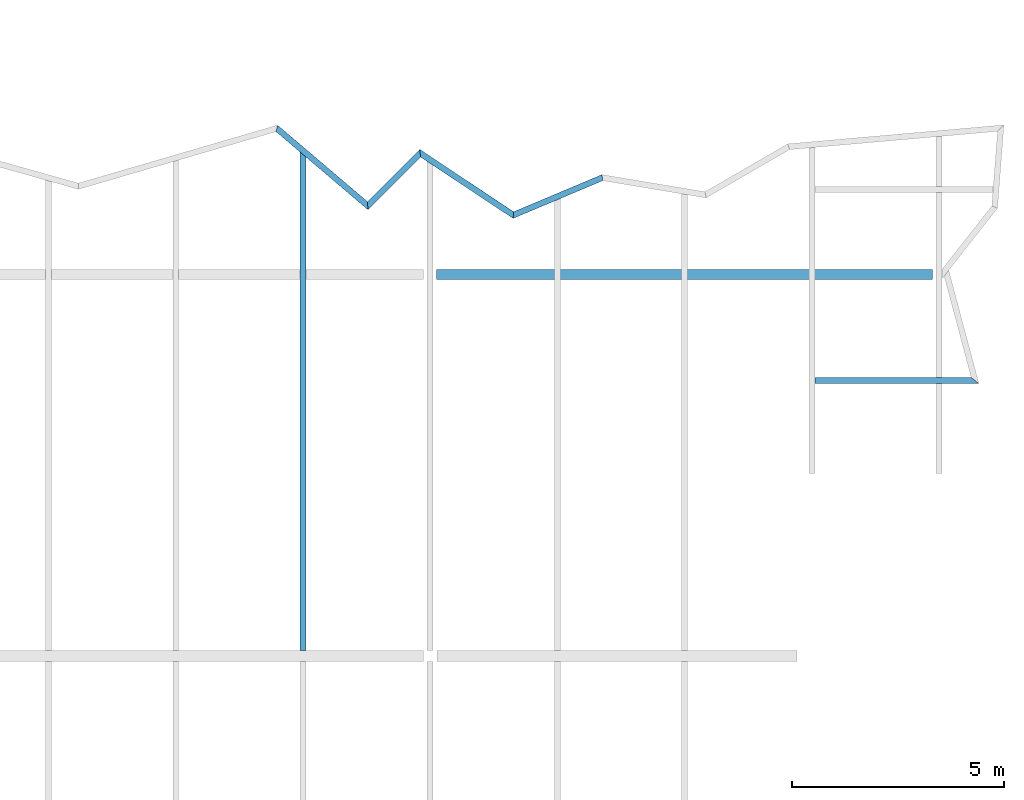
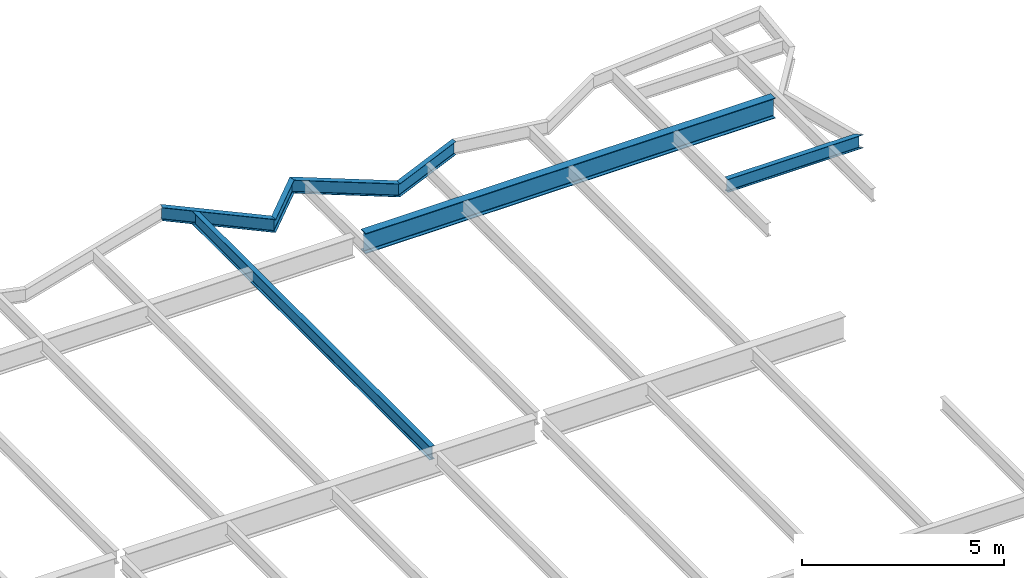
# One storey, part 19 of 21: 7 beams.
"""IFC2X3 building model written with IfcOpenShell, lengths in millimetres."""

from ifc_helpers import new_model, si_unit, origin, place, context, project, spatial, faceted_brep, material, element, save


model = new_model("IFC2X3")

# Units and contexts
context_of_model = context(None, 3, precision=1e-05, world=origin())
ifc_project = project(units=[si_unit("LENGTHUNIT", "METRE", prefix="MILLI")], contexts=[context_of_model])

# Building, storey
building = spatial("IfcBuilding", under=ifc_project, Name="Building", CompositionType="ELEMENT")
storey = spatial("IfcBuildingStorey", under=building, Name="FL6-FRM", CompositionType="ELEMENT")

# Beams
ifc_material_1 = material(Name="A992")
beam_1_placement = place(None, origin())
element("IfcBeam", 1, at=beam_1_placement, inside=storey, material=ifc_material_1, Name="B888", context=context_of_model, shape_type="Brep", body=[
    faceted_brep([(68930.0, 29886.4, 21970.0), (69070.0, 29767.4, 21970.0), (69070.0, 18132.5, 21970.0), (68930.0, 18132.5, 21970.0), (69070.0, 29767.4, 21981.2), (69070.0, 18132.5, 21981.2), (69013.7, 29815.3, 21981.2), (69013.7, 18132.5, 21981.2), (69012.3, 29816.5, 21981.3), (69012.2, 18132.5, 21981.3), (69010.8, 29817.7, 21981.6), (69010.8, 18132.5, 21981.6), (69009.5, 29818.9, 21982.1), (69009.5, 18132.5, 21982.1), (69008.2, 29819.9, 21982.8), (69008.2, 18132.5, 21982.8), (69007.0, 29820.9, 21983.7), (69007.0, 18132.5, 21983.7), (69006.0, 29821.8, 21984.7), (69006.0, 18132.5, 21984.7), (69005.1, 29822.5, 21985.8), (69005.1, 18132.5, 21985.9), (69004.4, 29823.1, 21987.1), (69004.4, 18132.5, 21987.2), (69003.9, 29823.6, 21988.5), (69003.9, 18132.5, 21988.5), (69003.6, 29823.8, 21989.9), (69003.6, 18132.5, 21989.9), (69003.5, 29823.9, 21991.4), (69003.5, 18132.5, 21991.4), (69003.5, 29823.9, 22351.6), (69003.5, 18132.5, 22351.6), (69003.6, 29823.8, 22353.1), (69003.6, 18132.5, 22353.1), (69003.9, 29823.6, 22354.5), (69003.9, 18132.5, 22354.5), (69004.4, 29823.1, 22355.9), (69004.4, 18132.5, 22355.8), (69005.1, 29822.5, 22357.2), (69005.1, 18132.5, 22357.1), (69006.0, 29821.8, 22358.3), (69006.0, 18132.5, 22358.3), (69007.0, 29820.9, 22359.3), (69007.0, 18132.5, 22359.3), (69008.2, 29819.9, 22360.2), (69008.2, 18132.5, 22360.2), (69009.5, 29818.9, 22360.9), (69009.5, 18132.5, 22360.9), (69010.8, 29817.7, 22361.4), (69010.8, 18132.5, 22361.4), (69012.3, 29816.5, 22361.7), (69012.2, 18132.5, 22361.7), (69013.7, 29815.3, 22361.8), (69013.7, 18132.5, 22361.8), (69070.0, 29767.4, 22361.8), (69070.0, 18132.5, 22361.8), (69070.0, 29767.4, 22373.0), (69070.0, 18132.5, 22373.0), (68930.0, 29886.4, 22373.0), (68930.0, 18132.5, 22373.0), (68930.0, 29886.4, 22361.8), (68930.0, 18132.5, 22361.8), (68986.3, 29838.6, 22361.8), (68986.3, 18132.5, 22361.8), (68987.7, 29837.3, 22361.7), (68987.8, 18132.5, 22361.7), (68989.2, 29836.1, 22361.4), (68989.2, 18132.5, 22361.4), (68990.5, 29835.0, 22360.9), (68990.5, 18132.5, 22360.9), (68991.8, 29833.9, 22360.2), (68991.8, 18132.5, 22360.2), (68993.0, 29832.9, 22359.3), (68993.0, 18132.5, 22359.3), (68994.0, 29832.0, 22358.3), (68994.0, 18132.5, 22358.3), (68994.9, 29831.3, 22357.2), (68994.9, 18132.5, 22357.1), (68995.6, 29830.7, 22355.9), (68995.6, 18132.5, 22355.8), (68996.1, 29830.3, 22354.5), (68996.1, 18132.5, 22354.5), (68996.4, 29830.0, 22353.1), (68996.4, 18132.5, 22353.1), (68996.5, 29829.9, 22351.6), (68996.5, 18132.5, 22351.6), (68996.5, 29829.9, 21991.4), (68996.5, 18132.5, 21991.4), (68996.4, 29830.0, 21989.9), (68996.4, 18132.5, 21989.9), (68996.1, 29830.3, 21988.5), (68996.1, 18132.5, 21988.5), (68995.6, 29830.7, 21987.1), (68995.6, 18132.5, 21987.2), (68994.9, 29831.3, 21985.8), (68994.9, 18132.5, 21985.9), (68994.0, 29832.0, 21984.7), (68994.0, 18132.5, 21984.7), (68993.0, 29832.9, 21983.7), (68993.0, 18132.5, 21983.7), (68991.8, 29833.9, 21982.8), (68991.8, 18132.5, 21982.8), (68990.5, 29835.0, 21982.1), (68990.5, 18132.5, 21982.1), (68989.2, 29836.1, 21981.6), (68989.2, 18132.5, 21981.6), (68987.7, 29837.3, 21981.3), (68987.8, 18132.5, 21981.3), (68986.3, 29838.6, 21981.2), (68986.3, 18132.5, 21981.2), (68930.0, 29886.4, 21981.2), (68930.0, 18132.5, 21981.2)], [[[0, 1, 2, 3]], [[1, 4, 5, 2]], [[4, 6, 7, 5]], [[6, 8, 9, 7]], [[8, 10, 11, 9]], [[10, 12, 13, 11]], [[12, 14, 15, 13]], [[14, 16, 17, 15]], [[16, 18, 19, 17]], [[18, 20, 21, 19]], [[20, 22, 23, 21]], [[22, 24, 25, 23]], [[24, 26, 27, 25]], [[26, 28, 29, 27]], [[28, 30, 31, 29]], [[30, 32, 33, 31]], [[32, 34, 35, 33]], [[34, 36, 37, 35]], [[36, 38, 39, 37]], [[38, 40, 41, 39]], [[40, 42, 43, 41]], [[42, 44, 45, 43]], [[44, 46, 47, 45]], [[46, 48, 49, 47]], [[48, 50, 51, 49]], [[50, 52, 53, 51]], [[52, 54, 55, 53]], [[54, 56, 57, 55]], [[56, 58, 59, 57]], [[58, 60, 61, 59]], [[60, 62, 63, 61]], [[62, 64, 65, 63]], [[64, 66, 67, 65]], [[66, 68, 69, 67]], [[68, 70, 71, 69]], [[70, 72, 73, 71]], [[72, 74, 75, 73]], [[74, 76, 77, 75]], [[76, 78, 79, 77]], [[78, 80, 81, 79]], [[80, 82, 83, 81]], [[82, 84, 85, 83]], [[84, 86, 87, 85]], [[86, 88, 89, 87]], [[88, 90, 91, 89]], [[90, 92, 93, 91]], [[92, 94, 95, 93]], [[94, 96, 97, 95]], [[96, 98, 99, 97]], [[98, 100, 101, 99]], [[100, 102, 103, 101]], [[102, 104, 105, 103]], [[104, 106, 107, 105]], [[106, 108, 109, 107]], [[108, 110, 111, 109]], [[110, 0, 3, 111]], [[0, 110, 108, 106, 104, 102, 100, 98, 96, 94, 92, 90, 88, 86, 84, 82, 80, 78, 76, 74, 72, 70, 68, 66, 64, 62, 60, 58, 56, 54, 52, 50, 48, 46, 44, 42, 40, 38, 36, 34, 32, 30, 28, 26, 24, 22, 20, 18, 16, 14, 12, 10, 8, 6, 4, 1]], [[3, 2, 5, 7, 9, 11, 13, 15, 17, 19, 21, 23, 25, 27, 29, 31, 33, 35, 37, 39, 41, 43, 45, 47, 49, 51, 53, 55, 57, 59, 61, 63, 65, 67, 69, 71, 73, 75, 77, 79, 81, 83, 85, 87, 89, 91, 93, 95, 97, 99, 101, 103, 105, 107, 109, 111]]]),
])
ifc_material_2 = material(Name="A992")
beam_2_placement = place(None, origin())
element("IfcBeam", 2, at=beam_2_placement, inside=storey, material=ifc_material_2, Name="Column616", context=context_of_model, shape_type="Brep", body=[
    faceted_brep([(72154.0, 26885.5, 21761.0), (72154.0, 27114.5, 21761.0), (83848.5, 27114.5, 21761.0), (83848.5, 26885.5, 21761.0), (72154.0, 27114.5, 21780.6), (83848.5, 27114.5, 21780.6), (72154.0, 27018.6, 21780.6), (83848.5, 27018.6, 21780.6), (72154.0, 27015.4, 21781.0), (83848.5, 27015.4, 21781.0), (72154.0, 27012.3, 21782.3), (83848.5, 27012.3, 21782.3), (72154.0, 27009.7, 21784.3), (83848.5, 27009.7, 21784.3), (72154.0, 27007.7, 21787.0), (83848.5, 27007.7, 21787.0), (72154.0, 27006.4, 21790.0), (83848.5, 27006.4, 21790.0), (72154.0, 27005.9, 21793.3), (83848.5, 27005.9, 21793.3), (72154.0, 27005.9, 22340.7), (83848.5, 27005.9, 22340.7), (72154.0, 27006.4, 22344.0), (83848.5, 27006.4, 22344.0), (72154.0, 27007.7, 22347.0), (83848.5, 27007.7, 22347.0), (72154.0, 27009.7, 22349.7), (83848.5, 27009.7, 22349.7), (72154.0, 27012.3, 22351.7), (83848.5, 27012.3, 22351.7), (72154.0, 27015.4, 22353.0), (83848.5, 27015.4, 22353.0), (72154.0, 27018.6, 22353.4), (83848.5, 27018.6, 22353.4), (72154.0, 27114.5, 22353.4), (83848.5, 27114.5, 22353.4), (72154.0, 27114.5, 22373.0), (83848.5, 27114.5, 22373.0), (72154.0, 26885.5, 22373.0), (83848.5, 26885.5, 22373.0), (72154.0, 26885.5, 22353.4), (83848.5, 26885.5, 22353.4), (72154.0, 26981.4, 22353.4), (83848.5, 26981.4, 22353.4), (72154.0, 26984.6, 22353.0), (83848.5, 26984.6, 22353.0), (72154.0, 26987.7, 22351.7), (83848.5, 26987.7, 22351.7), (72154.0, 26990.3, 22349.7), (83848.5, 26990.3, 22349.7), (72154.0, 26992.3, 22347.0), (83848.5, 26992.3, 22347.0), (72154.0, 26993.6, 22344.0), (83848.5, 26993.6, 22344.0), (72154.0, 26994.1, 22340.7), (83848.5, 26994.1, 22340.7), (72154.0, 26994.1, 21793.3), (83848.5, 26994.1, 21793.3), (72154.0, 26993.6, 21790.0), (83848.5, 26993.6, 21790.0), (72154.0, 26992.3, 21787.0), (83848.5, 26992.3, 21787.0), (72154.0, 26990.3, 21784.3), (83848.5, 26990.3, 21784.3), (72154.0, 26987.7, 21782.3), (83848.5, 26987.7, 21782.3), (72154.0, 26984.6, 21781.0), (83848.5, 26984.6, 21781.0), (72154.0, 26981.4, 21780.6), (83848.5, 26981.4, 21780.6), (72154.0, 26885.5, 21780.6), (83848.5, 26885.5, 21780.6)], [[[0, 1, 2, 3]], [[1, 4, 5, 2]], [[4, 6, 7, 5]], [[6, 8, 9, 7]], [[8, 10, 11, 9]], [[10, 12, 13, 11]], [[12, 14, 15, 13]], [[14, 16, 17, 15]], [[16, 18, 19, 17]], [[18, 20, 21, 19]], [[20, 22, 23, 21]], [[22, 24, 25, 23]], [[24, 26, 27, 25]], [[26, 28, 29, 27]], [[28, 30, 31, 29]], [[30, 32, 33, 31]], [[32, 34, 35, 33]], [[34, 36, 37, 35]], [[36, 38, 39, 37]], [[38, 40, 41, 39]], [[40, 42, 43, 41]], [[42, 44, 45, 43]], [[44, 46, 47, 45]], [[46, 48, 49, 47]], [[48, 50, 51, 49]], [[50, 52, 53, 51]], [[52, 54, 55, 53]], [[54, 56, 57, 55]], [[56, 58, 59, 57]], [[58, 60, 61, 59]], [[60, 62, 63, 61]], [[62, 64, 65, 63]], [[64, 66, 67, 65]], [[66, 68, 69, 67]], [[68, 70, 71, 69]], [[70, 0, 3, 71]], [[0, 70, 68, 66, 64, 62, 60, 58, 56, 54, 52, 50, 48, 46, 44, 42, 40, 38, 36, 34, 32, 30, 28, 26, 24, 22, 20, 18, 16, 14, 12, 10, 8, 6, 4, 1]], [[3, 2, 5, 7, 9, 11, 13, 15, 17, 19, 21, 23, 25, 27, 29, 31, 33, 35, 37, 39, 41, 43, 45, 47, 49, 51, 53, 55, 57, 59, 61, 63, 65, 67, 69, 71]]]),
])
ifc_material_3 = material(Name="A992")
beam_3_placement = place(None, origin())
element("IfcBeam", 3, at=beam_3_placement, inside=storey, material=ifc_material_3, Name="B913", context=context_of_model, shape_type="Brep", body=[
    faceted_brep([(68364.8, 30366.8, 21974.0), (68398.0, 30522.3, 21974.0), (70523.7, 28715.5, 21974.0), (70531.4, 28525.3, 21974.0), (68398.0, 30522.3, 21982.8), (70523.7, 28715.5, 21982.8), (68384.6, 30459.5, 21982.8), (70526.8, 28638.6, 21982.8), (68384.2, 30457.7, 21982.9), (70526.9, 28636.5, 21982.9), (68383.8, 30456.0, 21983.3), (70526.9, 28634.3, 21983.3), (68383.5, 30454.3, 21983.9), (70527.0, 28632.4, 21983.9), (68383.2, 30452.8, 21984.7), (70527.1, 28630.5, 21984.7), (68382.9, 30451.5, 21985.8), (70527.2, 28628.8, 21985.8), (68382.6, 30450.3, 21987.0), (70527.2, 28627.4, 21987.0), (68382.4, 30449.4, 21988.4), (70527.3, 28626.3, 21988.3), (68382.3, 30448.7, 21989.8), (70527.3, 28625.5, 21989.8), (68382.2, 30448.3, 21991.4), (70527.3, 28625.0, 21991.4), (68382.2, 30448.1, 21993.0), (70527.3, 28624.7, 21993.0), (68382.2, 30448.1, 22354.0), (70527.3, 28624.7, 22354.0), (68382.2, 30448.3, 22355.6), (70527.3, 28625.0, 22355.6), (68382.3, 30448.7, 22357.2), (70527.3, 28625.5, 22357.2), (68382.4, 30449.4, 22358.6), (70527.3, 28626.3, 22358.7), (68382.6, 30450.3, 22360.0), (70527.2, 28627.4, 22360.0), (68382.9, 30451.5, 22361.2), (70527.2, 28628.8, 22361.2), (68383.2, 30452.8, 22362.3), (70527.1, 28630.5, 22362.3), (68383.5, 30454.3, 22363.1), (70527.0, 28632.4, 22363.1), (68383.8, 30456.0, 22363.7), (70526.9, 28634.3, 22363.7), (68384.2, 30457.7, 22364.1), (70526.9, 28636.5, 22364.1), (68384.6, 30459.5, 22364.2), (70526.8, 28638.6, 22364.2), (68398.0, 30522.3, 22364.2), (70523.7, 28715.5, 22364.2), (68398.0, 30522.3, 22373.0), (70523.7, 28715.5, 22373.0), (68364.8, 30366.8, 22373.0), (70531.4, 28525.3, 22373.0), (68364.8, 30366.8, 22364.2), (70531.4, 28525.3, 22364.2), (68378.2, 30429.7, 22364.2), (70528.2, 28602.2, 22364.2), (68378.6, 30431.5, 22364.1), (70528.2, 28604.3, 22364.1), (68379.0, 30433.2, 22363.7), (70528.1, 28606.5, 22363.7), (68379.3, 30434.8, 22363.1), (70528.0, 28608.4, 22363.1), (68379.7, 30436.3, 22362.3), (70527.9, 28610.3, 22362.3), (68379.9, 30437.7, 22361.2), (70527.8, 28612.0, 22361.2), (68380.2, 30438.8, 22360.0), (70527.8, 28613.4, 22360.0), (68380.4, 30439.8, 22358.6), (70527.7, 28614.5, 22358.7), (68380.5, 30440.5, 22357.2), (70527.7, 28615.3, 22357.2), (68380.6, 30440.9, 22355.6), (70527.7, 28615.8, 22355.6), (68380.7, 30441.0, 22354.0), (70527.7, 28616.1, 22354.0), (68380.7, 30441.0, 21993.0), (70527.7, 28616.1, 21993.0), (68380.6, 30440.9, 21991.4), (70527.7, 28615.8, 21991.4), (68380.5, 30440.5, 21989.8), (70527.7, 28615.3, 21989.8), (68380.4, 30439.8, 21988.4), (70527.7, 28614.5, 21988.3), (68380.2, 30438.8, 21987.0), (70527.8, 28613.4, 21987.0), (68379.9, 30437.7, 21985.8), (70527.8, 28612.0, 21985.8), (68379.7, 30436.3, 21984.7), (70527.9, 28610.3, 21984.7), (68379.3, 30434.8, 21983.9), (70528.0, 28608.4, 21983.9), (68379.0, 30433.2, 21983.3), (70528.1, 28606.5, 21983.3), (68378.6, 30431.5, 21982.9), (70528.2, 28604.3, 21982.9), (68378.2, 30429.7, 21982.8), (70528.2, 28602.2, 21982.8), (68364.8, 30366.8, 21982.8), (70531.4, 28525.3, 21982.8)], [[[0, 1, 2, 3]], [[1, 4, 5, 2]], [[4, 6, 7, 5]], [[6, 8, 9, 7]], [[8, 10, 11, 9]], [[10, 12, 13, 11]], [[12, 14, 15, 13]], [[14, 16, 17, 15]], [[16, 18, 19, 17]], [[18, 20, 21, 19]], [[20, 22, 23, 21]], [[22, 24, 25, 23]], [[24, 26, 27, 25]], [[26, 28, 29, 27]], [[28, 30, 31, 29]], [[30, 32, 33, 31]], [[32, 34, 35, 33]], [[34, 36, 37, 35]], [[36, 38, 39, 37]], [[38, 40, 41, 39]], [[40, 42, 43, 41]], [[42, 44, 45, 43]], [[44, 46, 47, 45]], [[46, 48, 49, 47]], [[48, 50, 51, 49]], [[50, 52, 53, 51]], [[52, 54, 55, 53]], [[54, 56, 57, 55]], [[56, 58, 59, 57]], [[58, 60, 61, 59]], [[60, 62, 63, 61]], [[62, 64, 65, 63]], [[64, 66, 67, 65]], [[66, 68, 69, 67]], [[68, 70, 71, 69]], [[70, 72, 73, 71]], [[72, 74, 75, 73]], [[74, 76, 77, 75]], [[76, 78, 79, 77]], [[78, 80, 81, 79]], [[80, 82, 83, 81]], [[82, 84, 85, 83]], [[84, 86, 87, 85]], [[86, 88, 89, 87]], [[88, 90, 91, 89]], [[90, 92, 93, 91]], [[92, 94, 95, 93]], [[94, 96, 97, 95]], [[96, 98, 99, 97]], [[98, 100, 101, 99]], [[100, 102, 103, 101]], [[102, 0, 3, 103]], [[0, 102, 100, 98, 96, 94, 92, 90, 88, 86, 84, 82, 80, 78, 76, 74, 72, 70, 68, 66, 64, 62, 60, 58, 56, 54, 52, 50, 48, 46, 44, 42, 40, 38, 36, 34, 32, 30, 28, 26, 24, 22, 20, 18, 16, 14, 12, 10, 8, 6, 4, 1]], [[3, 2, 5, 7, 9, 11, 13, 15, 17, 19, 21, 23, 25, 27, 29, 31, 33, 35, 37, 39, 41, 43, 45, 47, 49, 51, 53, 55, 57, 59, 61, 63, 65, 67, 69, 71, 73, 75, 77, 79, 81, 83, 85, 87, 89, 91, 93, 95, 97, 99, 101, 103]]]),
])
ifc_material_4 = material(Name="A992")
beam_4_placement = place(None, origin())
element("IfcBeam", 4, at=beam_4_placement, inside=storey, material=ifc_material_4, Name="B914", context=context_of_model, shape_type="Brep", body=[
    faceted_brep([(70531.4, 28525.3, 21974.0), (70523.7, 28715.5, 21974.0), (71755.4, 29947.3, 21974.0), (71773.4, 29767.3, 21974.0), (70523.7, 28715.5, 21982.8), (71755.4, 29947.3, 21982.8), (70526.8, 28638.6, 21982.8), (71762.7, 29874.5, 21982.8), (70526.9, 28636.5, 21982.9), (71762.9, 29872.5, 21982.9), (70526.9, 28634.3, 21983.3), (71763.1, 29870.5, 21983.3), (70527.0, 28632.4, 21983.9), (71763.3, 29868.6, 21983.9), (70527.1, 28630.5, 21984.7), (71763.5, 29866.9, 21984.7), (70527.2, 28628.8, 21985.8), (71763.6, 29865.3, 21985.8), (70527.2, 28627.4, 21987.0), (71763.8, 29864.0, 21987.0), (70527.3, 28626.3, 21988.3), (71763.9, 29862.9, 21988.3), (70527.3, 28625.5, 21989.8), (71763.9, 29862.1, 21989.8), (70527.3, 28625.0, 21991.4), (71764.0, 29861.6, 21991.4), (70527.3, 28624.7, 21993.0), (71764.0, 29861.4, 21993.0), (70527.3, 28624.7, 22354.0), (71764.0, 29861.4, 22354.0), (70527.3, 28625.0, 22355.6), (71764.0, 29861.6, 22355.6), (70527.3, 28625.5, 22357.2), (71763.9, 29862.1, 22357.2), (70527.3, 28626.3, 22358.7), (71763.9, 29862.9, 22358.7), (70527.2, 28627.4, 22360.0), (71763.8, 29864.0, 22360.0), (70527.2, 28628.8, 22361.2), (71763.6, 29865.3, 22361.2), (70527.1, 28630.5, 22362.3), (71763.5, 29866.9, 22362.3), (70527.0, 28632.4, 22363.1), (71763.3, 29868.6, 22363.1), (70526.9, 28634.3, 22363.7), (71763.1, 29870.5, 22363.7), (70526.9, 28636.5, 22364.1), (71762.9, 29872.5, 22364.1), (70526.8, 28638.6, 22364.2), (71762.7, 29874.5, 22364.2), (70523.7, 28715.5, 22364.2), (71755.4, 29947.3, 22364.2), (70523.7, 28715.5, 22373.0), (71755.4, 29947.3, 22373.0), (70531.4, 28525.3, 22373.0), (71773.4, 29767.3, 22373.0), (70531.4, 28525.3, 22364.2), (71773.4, 29767.3, 22364.2), (70528.2, 28602.2, 22364.2), (71766.1, 29840.1, 22364.2), (70528.2, 28604.3, 22364.1), (71765.9, 29842.1, 22364.1), (70528.1, 28606.5, 22363.7), (71765.7, 29844.1, 22363.7), (70528.0, 28608.4, 22363.1), (71765.6, 29846.0, 22363.1), (70527.9, 28610.3, 22362.3), (71765.4, 29847.8, 22362.3), (70527.8, 28612.0, 22361.2), (71765.2, 29849.4, 22361.2), (70527.8, 28613.4, 22360.0), (71765.1, 29850.7, 22360.0), (70527.7, 28614.5, 22358.7), (71765.0, 29851.8, 22358.7), (70527.7, 28615.3, 22357.2), (71764.9, 29852.5, 22357.2), (70527.7, 28615.8, 22355.6), (71764.9, 29853.0, 22355.6), (70527.7, 28616.1, 22354.0), (71764.8, 29853.2, 22354.0), (70527.7, 28616.1, 21993.0), (71764.8, 29853.2, 21993.0), (70527.7, 28615.8, 21991.4), (71764.9, 29853.0, 21991.4), (70527.7, 28615.3, 21989.8), (71764.9, 29852.5, 21989.8), (70527.7, 28614.5, 21988.3), (71765.0, 29851.8, 21988.3), (70527.8, 28613.4, 21987.0), (71765.1, 29850.7, 21987.0), (70527.8, 28612.0, 21985.8), (71765.2, 29849.4, 21985.8), (70527.9, 28610.3, 21984.7), (71765.4, 29847.8, 21984.7), (70528.0, 28608.4, 21983.9), (71765.6, 29846.0, 21983.9), (70528.1, 28606.5, 21983.3), (71765.7, 29844.1, 21983.3), (70528.2, 28604.3, 21982.9), (71765.9, 29842.1, 21982.9), (70528.2, 28602.2, 21982.8), (71766.1, 29840.1, 21982.8), (70531.4, 28525.3, 21982.8), (71773.4, 29767.3, 21982.8)], [[[0, 1, 2, 3]], [[1, 4, 5, 2]], [[4, 6, 7, 5]], [[6, 8, 9, 7]], [[8, 10, 11, 9]], [[10, 12, 13, 11]], [[12, 14, 15, 13]], [[14, 16, 17, 15]], [[16, 18, 19, 17]], [[18, 20, 21, 19]], [[20, 22, 23, 21]], [[22, 24, 25, 23]], [[24, 26, 27, 25]], [[26, 28, 29, 27]], [[28, 30, 31, 29]], [[30, 32, 33, 31]], [[32, 34, 35, 33]], [[34, 36, 37, 35]], [[36, 38, 39, 37]], [[38, 40, 41, 39]], [[40, 42, 43, 41]], [[42, 44, 45, 43]], [[44, 46, 47, 45]], [[46, 48, 49, 47]], [[48, 50, 51, 49]], [[50, 52, 53, 51]], [[52, 54, 55, 53]], [[54, 56, 57, 55]], [[56, 58, 59, 57]], [[58, 60, 61, 59]], [[60, 62, 63, 61]], [[62, 64, 65, 63]], [[64, 66, 67, 65]], [[66, 68, 69, 67]], [[68, 70, 71, 69]], [[70, 72, 73, 71]], [[72, 74, 75, 73]], [[74, 76, 77, 75]], [[76, 78, 79, 77]], [[78, 80, 81, 79]], [[80, 82, 83, 81]], [[82, 84, 85, 83]], [[84, 86, 87, 85]], [[86, 88, 89, 87]], [[88, 90, 91, 89]], [[90, 92, 93, 91]], [[92, 94, 95, 93]], [[94, 96, 97, 95]], [[96, 98, 99, 97]], [[98, 100, 101, 99]], [[100, 102, 103, 101]], [[102, 0, 3, 103]], [[0, 102, 100, 98, 96, 94, 92, 90, 88, 86, 84, 82, 80, 78, 76, 74, 72, 70, 68, 66, 64, 62, 60, 58, 56, 54, 52, 50, 48, 46, 44, 42, 40, 38, 36, 34, 32, 30, 28, 26, 24, 22, 20, 18, 16, 14, 12, 10, 8, 6, 4, 1]], [[3, 2, 5, 7, 9, 11, 13, 15, 17, 19, 21, 23, 25, 27, 29, 31, 33, 35, 37, 39, 41, 43, 45, 47, 49, 51, 53, 55, 57, 59, 61, 63, 65, 67, 69, 71, 73, 75, 77, 79, 81, 83, 85, 87, 89, 91, 93, 95, 97, 99, 101, 103]]]),
])
ifc_material_5 = material(Name="A992")
beam_5_placement = place(None, origin())
element("IfcBeam", 5, at=beam_5_placement, inside=storey, material=ifc_material_5, Name="B915", context=context_of_model, shape_type="Brep", body=[
    faceted_brep([(71773.4, 29767.3, 21974.0), (71755.4, 29947.3, 21974.0), (73969.9, 28478.7, 21974.0), (73955.0, 28320.5, 21974.0), (71755.4, 29947.3, 21982.8), (73969.9, 28478.7, 21982.8), (71762.7, 29874.5, 21982.8), (73963.9, 28414.7, 21982.8), (71762.9, 29872.5, 21982.9), (73963.7, 28412.9, 21982.9), (71763.1, 29870.5, 21983.3), (73963.6, 28411.2, 21983.3), (71763.3, 29868.6, 21983.9), (73963.4, 28409.5, 21983.9), (71763.5, 29866.9, 21984.7), (73963.3, 28408.0, 21984.7), (71763.6, 29865.3, 21985.8), (73963.1, 28406.6, 21985.8), (71763.8, 29864.0, 21987.0), (73963.0, 28405.4, 21987.0), (71763.9, 29862.9, 21988.3), (73962.9, 28404.5, 21988.4), (71763.9, 29862.1, 21989.8), (73962.9, 28403.8, 21989.8), (71764.0, 29861.6, 21991.4), (73962.8, 28403.3, 21991.4), (71764.0, 29861.4, 21993.0), (73962.8, 28403.2, 21993.0), (71764.0, 29861.4, 22354.0), (73962.8, 28403.2, 22354.0), (71764.0, 29861.6, 22355.6), (73962.8, 28403.3, 22355.6), (71763.9, 29862.1, 22357.2), (73962.9, 28403.8, 22357.2), (71763.9, 29862.9, 22358.7), (73962.9, 28404.5, 22358.6), (71763.8, 29864.0, 22360.0), (73963.0, 28405.4, 22360.0), (71763.6, 29865.3, 22361.2), (73963.1, 28406.6, 22361.2), (71763.5, 29866.9, 22362.3), (73963.3, 28408.0, 22362.3), (71763.3, 29868.6, 22363.1), (73963.4, 28409.5, 22363.1), (71763.1, 29870.5, 22363.7), (73963.6, 28411.2, 22363.7), (71762.9, 29872.5, 22364.1), (73963.7, 28412.9, 22364.1), (71762.7, 29874.5, 22364.2), (73963.9, 28414.7, 22364.2), (71755.4, 29947.3, 22364.2), (73969.9, 28478.7, 22364.2), (71755.4, 29947.3, 22373.0), (73969.9, 28478.7, 22373.0), (71773.4, 29767.3, 22373.0), (73955.0, 28320.5, 22373.0), (71773.4, 29767.3, 22364.2), (73955.0, 28320.5, 22364.2), (71766.1, 29840.1, 22364.2), (73961.0, 28384.4, 22364.2), (71765.9, 29842.1, 22364.1), (73961.2, 28386.2, 22364.1), (71765.7, 29844.1, 22363.7), (73961.4, 28388.0, 22363.7), (71765.6, 29846.0, 22363.1), (73961.5, 28389.7, 22363.1), (71765.4, 29847.8, 22362.3), (73961.7, 28391.2, 22362.3), (71765.2, 29849.4, 22361.2), (73961.8, 28392.6, 22361.2), (71765.1, 29850.7, 22360.0), (73961.9, 28393.7, 22360.0), (71765.0, 29851.8, 22358.7), (73962.0, 28394.7, 22358.6), (71764.9, 29852.5, 22357.2), (73962.1, 28395.4, 22357.2), (71764.9, 29853.0, 22355.6), (73962.1, 28395.8, 22355.6), (71764.8, 29853.2, 22354.0), (73962.1, 28396.0, 22354.0), (71764.8, 29853.2, 21993.0), (73962.1, 28396.0, 21993.0), (71764.9, 29853.0, 21991.4), (73962.1, 28395.8, 21991.4), (71764.9, 29852.5, 21989.8), (73962.1, 28395.4, 21989.8), (71765.0, 29851.8, 21988.3), (73962.0, 28394.7, 21988.4), (71765.1, 29850.7, 21987.0), (73961.9, 28393.7, 21987.0), (71765.2, 29849.4, 21985.8), (73961.8, 28392.6, 21985.8), (71765.4, 29847.8, 21984.7), (73961.7, 28391.2, 21984.7), (71765.6, 29846.0, 21983.9), (73961.5, 28389.7, 21983.9), (71765.7, 29844.1, 21983.3), (73961.4, 28388.0, 21983.3), (71765.9, 29842.1, 21982.9), (73961.2, 28386.2, 21982.9), (71766.1, 29840.1, 21982.8), (73961.0, 28384.4, 21982.8), (71773.4, 29767.3, 21982.8), (73955.0, 28320.5, 21982.8)], [[[0, 1, 2, 3]], [[1, 4, 5, 2]], [[4, 6, 7, 5]], [[6, 8, 9, 7]], [[8, 10, 11, 9]], [[10, 12, 13, 11]], [[12, 14, 15, 13]], [[14, 16, 17, 15]], [[16, 18, 19, 17]], [[18, 20, 21, 19]], [[20, 22, 23, 21]], [[22, 24, 25, 23]], [[24, 26, 27, 25]], [[26, 28, 29, 27]], [[28, 30, 31, 29]], [[30, 32, 33, 31]], [[32, 34, 35, 33]], [[34, 36, 37, 35]], [[36, 38, 39, 37]], [[38, 40, 41, 39]], [[40, 42, 43, 41]], [[42, 44, 45, 43]], [[44, 46, 47, 45]], [[46, 48, 49, 47]], [[48, 50, 51, 49]], [[50, 52, 53, 51]], [[52, 54, 55, 53]], [[54, 56, 57, 55]], [[56, 58, 59, 57]], [[58, 60, 61, 59]], [[60, 62, 63, 61]], [[62, 64, 65, 63]], [[64, 66, 67, 65]], [[66, 68, 69, 67]], [[68, 70, 71, 69]], [[70, 72, 73, 71]], [[72, 74, 75, 73]], [[74, 76, 77, 75]], [[76, 78, 79, 77]], [[78, 80, 81, 79]], [[80, 82, 83, 81]], [[82, 84, 85, 83]], [[84, 86, 87, 85]], [[86, 88, 89, 87]], [[88, 90, 91, 89]], [[90, 92, 93, 91]], [[92, 94, 95, 93]], [[94, 96, 97, 95]], [[96, 98, 99, 97]], [[98, 100, 101, 99]], [[100, 102, 103, 101]], [[102, 0, 3, 103]], [[0, 102, 100, 98, 96, 94, 92, 90, 88, 86, 84, 82, 80, 78, 76, 74, 72, 70, 68, 66, 64, 62, 60, 58, 56, 54, 52, 50, 48, 46, 44, 42, 40, 38, 36, 34, 32, 30, 28, 26, 24, 22, 20, 18, 16, 14, 12, 10, 8, 6, 4, 1]], [[3, 2, 5, 7, 9, 11, 13, 15, 17, 19, 21, 23, 25, 27, 29, 31, 33, 35, 37, 39, 41, 43, 45, 47, 49, 51, 53, 55, 57, 59, 61, 63, 65, 67, 69, 71, 73, 75, 77, 79, 81, 83, 85, 87, 89, 91, 93, 95, 97, 99, 101, 103]]]),
])
ifc_material_6 = material(Name="A992")
beam_6_placement = place(None, origin())
element("IfcBeam", 6, at=beam_6_placement, inside=storey, material=ifc_material_6, Name="B916", context=context_of_model, shape_type="Brep", body=[
    faceted_brep([(73955.0, 28320.5, 21974.0), (73969.9, 28478.7, 21974.0), (76052.1, 29355.4, 21974.0), (76069.1, 29210.6, 21974.0), (73969.9, 28478.7, 21982.8), (76052.1, 29355.4, 21982.8), (73963.9, 28414.7, 21982.8), (76059.0, 29296.9, 21982.8), (73963.7, 28413.1, 21982.9), (76059.2, 29295.4, 21982.9), (73963.6, 28411.5, 21983.2), (76059.3, 29293.9, 21983.2), (73963.4, 28409.9, 21983.7), (76059.5, 29292.5, 21983.7), (73963.3, 28408.5, 21984.4), (76059.6, 29291.2, 21984.4), (73963.2, 28407.2, 21985.3), (76059.8, 29290.0, 21985.3), (73963.1, 28406.0, 21986.3), (76059.9, 29288.9, 21986.3), (73963.0, 28405.0, 21987.5), (76060.0, 29288.0, 21987.5), (73962.9, 28404.2, 21988.8), (76060.1, 29287.3, 21988.8), (73962.9, 28403.7, 21990.1), (76060.2, 29286.7, 21990.1), (73962.8, 28403.3, 21991.5), (76060.2, 29286.4, 21991.5), (73962.8, 28403.2, 21993.0), (76060.2, 29286.3, 21993.0), (73962.8, 28403.2, 22354.0), (76060.2, 29286.3, 22354.0), (73962.8, 28403.3, 22355.5), (76060.2, 29286.4, 22355.5), (73962.9, 28403.7, 22356.9), (76060.2, 29286.7, 22356.9), (73962.9, 28404.2, 22358.2), (76060.1, 29287.3, 22358.2), (73963.0, 28405.0, 22359.5), (76060.0, 29288.0, 22359.5), (73963.1, 28406.0, 22360.7), (76059.9, 29288.9, 22360.7), (73963.2, 28407.2, 22361.7), (76059.8, 29290.0, 22361.7), (73963.3, 28408.5, 22362.6), (76059.6, 29291.2, 22362.6), (73963.4, 28409.9, 22363.3), (76059.5, 29292.5, 22363.3), (73963.6, 28411.5, 22363.8), (76059.3, 29293.9, 22363.8), (73963.7, 28413.1, 22364.1), (76059.2, 29295.4, 22364.1), (73963.9, 28414.7, 22364.2), (76059.0, 29296.9, 22364.2), (73969.9, 28478.7, 22364.2), (76052.1, 29355.4, 22364.2), (73969.9, 28478.7, 22373.0), (76052.1, 29355.4, 22373.0), (73955.0, 28320.5, 22373.0), (76069.1, 29210.6, 22373.0), (73955.0, 28320.5, 22364.2), (76069.1, 29210.6, 22364.2), (73961.0, 28384.4, 22364.2), (76062.2, 29269.1, 22364.2), (73961.2, 28386.1, 22364.1), (76062.1, 29270.6, 22364.1), (73961.4, 28387.7, 22363.8), (76061.9, 29272.1, 22363.8), (73961.5, 28389.2, 22363.3), (76061.7, 29273.5, 22363.3), (73961.6, 28390.7, 22362.6), (76061.6, 29274.8, 22362.6), (73961.8, 28392.0, 22361.7), (76061.4, 29276.1, 22361.7), (73961.9, 28393.1, 22360.7), (76061.3, 29277.1, 22360.7), (73962.0, 28394.1, 22359.5), (76061.2, 29278.0, 22359.5), (73962.0, 28394.9, 22358.2), (76061.1, 29278.7, 22358.2), (73962.1, 28395.5, 22356.9), (76061.0, 29279.3, 22356.9), (73962.1, 28395.8, 22355.5), (76061.0, 29279.6, 22355.5), (73962.1, 28396.0, 22354.0), (76061.0, 29279.7, 22354.0), (73962.1, 28396.0, 21993.0), (76061.0, 29279.7, 21993.0), (73962.1, 28395.8, 21991.5), (76061.0, 29279.6, 21991.5), (73962.1, 28395.5, 21990.1), (76061.0, 29279.3, 21990.1), (73962.0, 28394.9, 21988.8), (76061.1, 29278.7, 21988.8), (73962.0, 28394.1, 21987.5), (76061.2, 29278.0, 21987.5), (73961.9, 28393.1, 21986.3), (76061.3, 29277.1, 21986.3), (73961.8, 28392.0, 21985.3), (76061.4, 29276.1, 21985.3), (73961.6, 28390.7, 21984.4), (76061.6, 29274.8, 21984.4), (73961.5, 28389.2, 21983.7), (76061.7, 29273.5, 21983.7), (73961.4, 28387.7, 21983.2), (76061.9, 29272.1, 21983.2), (73961.2, 28386.1, 21982.9), (76062.1, 29270.6, 21982.9), (73961.0, 28384.4, 21982.8), (76062.2, 29269.1, 21982.8), (73955.0, 28320.5, 21982.8), (76069.1, 29210.6, 21982.8)], [[[0, 1, 2, 3]], [[1, 4, 5, 2]], [[4, 6, 7, 5]], [[6, 8, 9, 7]], [[8, 10, 11, 9]], [[10, 12, 13, 11]], [[12, 14, 15, 13]], [[14, 16, 17, 15]], [[16, 18, 19, 17]], [[18, 20, 21, 19]], [[20, 22, 23, 21]], [[22, 24, 25, 23]], [[24, 26, 27, 25]], [[26, 28, 29, 27]], [[28, 30, 31, 29]], [[30, 32, 33, 31]], [[32, 34, 35, 33]], [[34, 36, 37, 35]], [[36, 38, 39, 37]], [[38, 40, 41, 39]], [[40, 42, 43, 41]], [[42, 44, 45, 43]], [[44, 46, 47, 45]], [[46, 48, 49, 47]], [[48, 50, 51, 49]], [[50, 52, 53, 51]], [[52, 54, 55, 53]], [[54, 56, 57, 55]], [[56, 58, 59, 57]], [[58, 60, 61, 59]], [[60, 62, 63, 61]], [[62, 64, 65, 63]], [[64, 66, 67, 65]], [[66, 68, 69, 67]], [[68, 70, 71, 69]], [[70, 72, 73, 71]], [[72, 74, 75, 73]], [[74, 76, 77, 75]], [[76, 78, 79, 77]], [[78, 80, 81, 79]], [[80, 82, 83, 81]], [[82, 84, 85, 83]], [[84, 86, 87, 85]], [[86, 88, 89, 87]], [[88, 90, 91, 89]], [[90, 92, 93, 91]], [[92, 94, 95, 93]], [[94, 96, 97, 95]], [[96, 98, 99, 97]], [[98, 100, 101, 99]], [[100, 102, 103, 101]], [[102, 104, 105, 103]], [[104, 106, 107, 105]], [[106, 108, 109, 107]], [[108, 110, 111, 109]], [[110, 0, 3, 111]], [[0, 110, 108, 106, 104, 102, 100, 98, 96, 94, 92, 90, 88, 86, 84, 82, 80, 78, 76, 74, 72, 70, 68, 66, 64, 62, 60, 58, 56, 54, 52, 50, 48, 46, 44, 42, 40, 38, 36, 34, 32, 30, 28, 26, 24, 22, 20, 18, 16, 14, 12, 10, 8, 6, 4, 1]], [[3, 2, 5, 7, 9, 11, 13, 15, 17, 19, 21, 23, 25, 27, 29, 31, 33, 35, 37, 39, 41, 43, 45, 47, 49, 51, 53, 55, 57, 59, 61, 63, 65, 67, 69, 71, 73, 75, 77, 79, 81, 83, 85, 87, 89, 91, 93, 95, 97, 99, 101, 103, 105, 107, 109, 111]]]),
])
ifc_material_7 = material(Name="A992")
beam_7_placement = place(None, origin())
element("IfcBeam", 7, at=beam_7_placement, inside=storey, material=ifc_material_7, Name="B923", context=context_of_model, shape_type="Brep", body=[
    faceted_brep([(81070.0, 24430.0, 21974.0), (81070.0, 24570.0, 21974.0), (84758.1, 24570.0, 21974.0), (84940.3, 24430.0, 21974.0), (81070.0, 24570.0, 21982.8), (84758.1, 24570.0, 21982.8), (81070.0, 24513.4, 21982.8), (84831.8, 24513.4, 21982.8), (81070.0, 24511.8, 21982.9), (84833.8, 24511.8, 21982.9), (81070.0, 24510.2, 21983.3), (84835.8, 24510.3, 21983.3), (81070.0, 24508.8, 21983.9), (84837.7, 24508.8, 21983.9), (81070.0, 24507.4, 21984.7), (84839.5, 24507.5, 21984.7), (81070.0, 24506.2, 21985.8), (84841.1, 24506.2, 21985.8), (81070.0, 24505.1, 21987.0), (84842.4, 24505.2, 21986.9), (81070.0, 24504.3, 21988.4), (84843.6, 24504.3, 21988.3), (81070.0, 24503.7, 21989.8), (84844.3, 24503.7, 21989.8), (81070.0, 24503.3, 21991.4), (84844.8, 24503.4, 21991.4), (81070.0, 24503.2, 21993.0), (84845.0, 24503.2, 21993.0), (81070.0, 24503.2, 22354.0), (84845.0, 24503.2, 22354.0), (81070.0, 24503.3, 22355.6), (84844.8, 24503.4, 22355.6), (81070.0, 24503.7, 22357.2), (84844.3, 24503.7, 22357.2), (81070.0, 24504.3, 22358.6), (84843.6, 24504.3, 22358.7), (81070.0, 24505.1, 22360.0), (84842.4, 24505.2, 22360.1), (81070.0, 24506.2, 22361.2), (84841.1, 24506.2, 22361.2), (81070.0, 24507.4, 22362.3), (84839.5, 24507.5, 22362.3), (81070.0, 24508.8, 22363.1), (84837.7, 24508.8, 22363.1), (81070.0, 24510.2, 22363.7), (84835.8, 24510.3, 22363.7), (81070.0, 24511.8, 22364.1), (84833.8, 24511.8, 22364.1), (81070.0, 24513.4, 22364.2), (84831.8, 24513.4, 22364.2), (81070.0, 24570.0, 22364.2), (84758.1, 24570.0, 22364.2), (81070.0, 24570.0, 22373.0), (84758.1, 24570.0, 22373.0), (81070.0, 24430.0, 22373.0), (84940.3, 24430.0, 22373.0), (81070.0, 24430.0, 22364.2), (84940.3, 24430.0, 22364.2), (81070.0, 24486.6, 22364.2), (84866.6, 24486.6, 22364.2), (81070.0, 24488.2, 22364.1), (84864.6, 24488.2, 22364.1), (81070.0, 24489.8, 22363.7), (84862.6, 24489.7, 22363.7), (81070.0, 24491.2, 22363.1), (84860.7, 24491.2, 22363.1), (81070.0, 24492.6, 22362.3), (84858.9, 24492.5, 22362.3), (81070.0, 24493.8, 22361.2), (84857.2, 24493.8, 22361.2), (81070.0, 24494.9, 22360.0), (84856.0, 24494.8, 22360.1), (81070.0, 24495.7, 22358.6), (84854.8, 24495.7, 22358.7), (81070.0, 24496.3, 22357.2), (84854.1, 24496.3, 22357.2), (81070.0, 24496.7, 22355.6), (84853.6, 24496.6, 22355.6), (81070.0, 24496.8, 22354.0), (84853.4, 24496.8, 22354.0), (81070.0, 24496.8, 21993.0), (84853.4, 24496.8, 21993.0), (81070.0, 24496.7, 21991.4), (84853.6, 24496.6, 21991.4), (81070.0, 24496.3, 21989.8), (84854.1, 24496.3, 21989.8), (81070.0, 24495.7, 21988.4), (84854.8, 24495.7, 21988.3), (81070.0, 24494.9, 21987.0), (84856.0, 24494.8, 21986.9), (81070.0, 24493.8, 21985.8), (84857.2, 24493.8, 21985.8), (81070.0, 24492.6, 21984.7), (84858.9, 24492.5, 21984.7), (81070.0, 24491.2, 21983.9), (84860.7, 24491.2, 21983.9), (81070.0, 24489.8, 21983.3), (84862.6, 24489.7, 21983.3), (81070.0, 24488.2, 21982.9), (84864.6, 24488.2, 21982.9), (81070.0, 24486.6, 21982.8), (84866.6, 24486.6, 21982.8), (81070.0, 24430.0, 21982.8), (84940.3, 24430.0, 21982.8)], [[[0, 1, 2, 3]], [[1, 4, 5, 2]], [[4, 6, 7, 5]], [[6, 8, 9, 7]], [[8, 10, 11, 9]], [[10, 12, 13, 11]], [[12, 14, 15, 13]], [[14, 16, 17, 15]], [[16, 18, 19, 17]], [[18, 20, 21, 19]], [[20, 22, 23, 21]], [[22, 24, 25, 23]], [[24, 26, 27, 25]], [[26, 28, 29, 27]], [[28, 30, 31, 29]], [[30, 32, 33, 31]], [[32, 34, 35, 33]], [[34, 36, 37, 35]], [[36, 38, 39, 37]], [[38, 40, 41, 39]], [[40, 42, 43, 41]], [[42, 44, 45, 43]], [[44, 46, 47, 45]], [[46, 48, 49, 47]], [[48, 50, 51, 49]], [[50, 52, 53, 51]], [[52, 54, 55, 53]], [[54, 56, 57, 55]], [[56, 58, 59, 57]], [[58, 60, 61, 59]], [[60, 62, 63, 61]], [[62, 64, 65, 63]], [[64, 66, 67, 65]], [[66, 68, 69, 67]], [[68, 70, 71, 69]], [[70, 72, 73, 71]], [[72, 74, 75, 73]], [[74, 76, 77, 75]], [[76, 78, 79, 77]], [[78, 80, 81, 79]], [[80, 82, 83, 81]], [[82, 84, 85, 83]], [[84, 86, 87, 85]], [[86, 88, 89, 87]], [[88, 90, 91, 89]], [[90, 92, 93, 91]], [[92, 94, 95, 93]], [[94, 96, 97, 95]], [[96, 98, 99, 97]], [[98, 100, 101, 99]], [[100, 102, 103, 101]], [[102, 0, 3, 103]], [[0, 102, 100, 98, 96, 94, 92, 90, 88, 86, 84, 82, 80, 78, 76, 74, 72, 70, 68, 66, 64, 62, 60, 58, 56, 54, 52, 50, 48, 46, 44, 42, 40, 38, 36, 34, 32, 30, 28, 26, 24, 22, 20, 18, 16, 14, 12, 10, 8, 6, 4, 1]], [[3, 2, 5, 7, 9, 11, 13, 15, 17, 19, 21, 23, 25, 27, 29, 31, 33, 35, 37, 39, 41, 43, 45, 47, 49, 51, 53, 55, 57, 59, 61, 63, 65, 67, 69, 71, 73, 75, 77, 79, 81, 83, 85, 87, 89, 91, 93, 95, 97, 99, 101, 103]]]),
])

save(model, "model.ifc")
